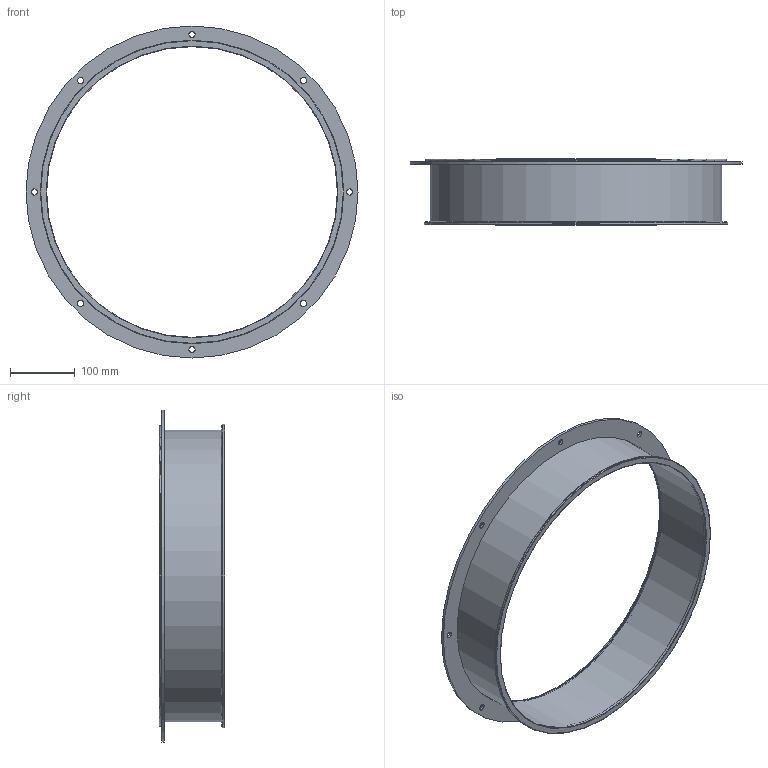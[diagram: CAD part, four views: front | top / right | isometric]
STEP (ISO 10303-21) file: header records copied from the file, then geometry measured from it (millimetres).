
FILE_DESCRIPTION(/* description */ (''),/* implementation_level */ '2;1');
FILE_NAME(/* name */ 'METU_EA109-41D_450_L100.stp',/* time_stamp */ '2018-10-10T13:30:17+02:00',/* author */ (''),/* organization */ (''),/* preprocessor_version */ 'ST-DEVELOPER v11',/* originating_system */ 'SIEMENS UGS NX 6.0',/* authorisation */ '');
FILE_SCHEMA (('CONFIG_CONTROL_DESIGN'));
Length unit declared in the file: millimetre
Products named in the file (1): garsCF17de8z
Bounding box: 514 x 101.5 x 514 mm (x, y, z)
Volume: 389570.7 mm3; surface area: 471481.6 mm2
Topology: 3 solids, 3 shells, 32 faces, 76 edges, 53 vertices
Faces by surface type: cylinder 17, plane 9, torus 5, cone 1
Full cylindrical faces by diameter (mm): 9.5 x8, 450 x2, 451.6 x1, 452 x1, 454 x1, 461.6 x1, 462 x1, 470 x1, 514 x1
Entity records: 850 total; most frequent: DIRECTION 146, CARTESIAN_POINT 113, FACE_BOUND 80, EDGE_LOOP 80, ORIENTED_EDGE 80, AXIS2_PLACEMENT_3D 73, VERTEX_POINT 40, EDGE_CURVE 40
